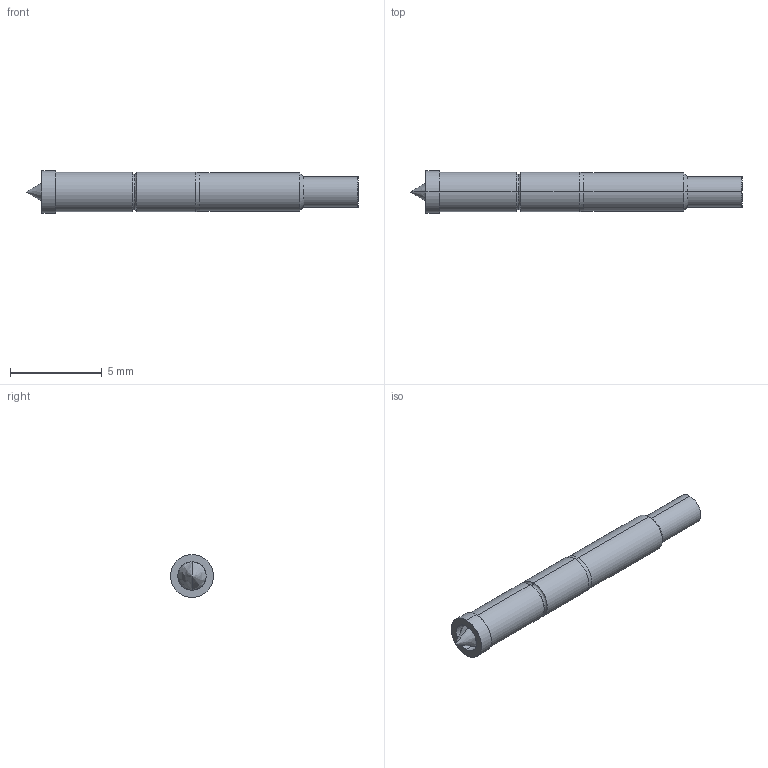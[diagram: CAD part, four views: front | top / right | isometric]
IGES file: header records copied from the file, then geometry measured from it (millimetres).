
Start section: SolidWorks IGES file using analytic representation for surfaces
Global section: file name: O:\PYLON\IGES FILES\F-S\F-S-C REC'D.IGS; native system: SolidWorks 2015; preprocessor: SolidWorks 2015; author: kgolden; date: 171024.100345; units: inch
Bounding box: 18.14 x 2.34 x 2.34 mm (x, y, z)
Surface area: 137.3 mm2 (no closed solid volume)
Topology: 0 solids, 0 shells, 28 faces, 256 edges, 254 vertices
Faces by surface type: revolution 20, bspline 8
